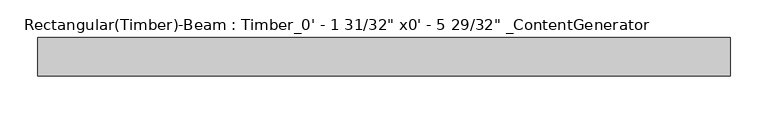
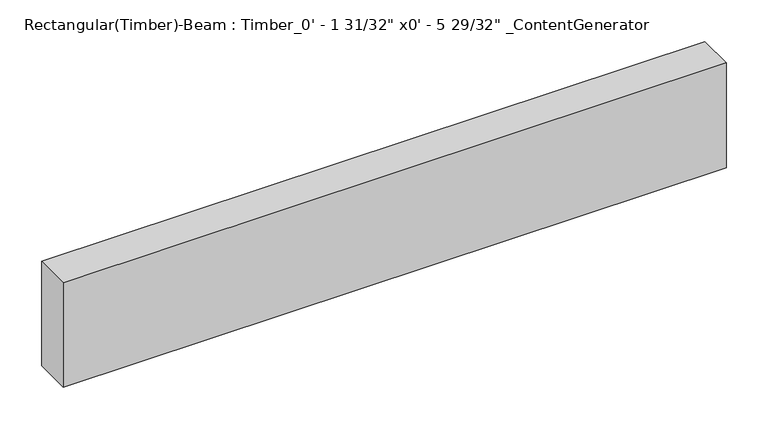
"""IFC4 building model written with IfcOpenShell, lengths in millimetres: beam geometry."""

from ifc_helpers import new_model, si_unit, frame, origin, place, context, project, spatial, polyline, outline, extrude, source, transform, mapped, element, save


def beam_c16debae(model_context):
    return source(origin(), model_context, "Body", "SweptSolid", [
        extrude(outline(polyline([(457.2099994, 25.4), (457.2099994, -25.4), (-457.19, -25.4), (-457.19, 25.4), (457.2099994, 25.4)])), frame((0.0, 0.0, -76.2), z_axis=(0.0, 0.0, 1.0), x_axis=(1.0, 0.0, 0.0)), (0.0, 0.0, 1.0), 152.4),
    ])


if __name__ == "__main__":
    model = new_model("IFC4")
    model_context = context("Model", 3, world=origin())
    ifc_project = project(units=[si_unit("LENGTHUNIT", "METRE", prefix="MILLI")], contexts=[model_context])
    site = spatial("IfcSite", under=ifc_project)
    building = spatial("IfcBuilding", under=site)
    placement = place(None, origin())
    beam_shape = beam_c16debae(model_context)
    element("IfcBeam", 1, ObjectType="Rectangular(Timber)-Beam : Timber_0' - 1 31/32\" x0' - 5 29/32\" _ContentGenerator", at=placement, inside=building, context=model_context, shape_type="MappedRepresentation", body=[
        mapped(beam_shape, transform((0.0, 0.0, 0.0), x_axis=(1.0, 0.0, 0.0), y_axis=(0.0, 1.0, 0.0), z_axis=(0.0, 0.0, 1.0))),
    ])
    save(model, "model.ifc")
